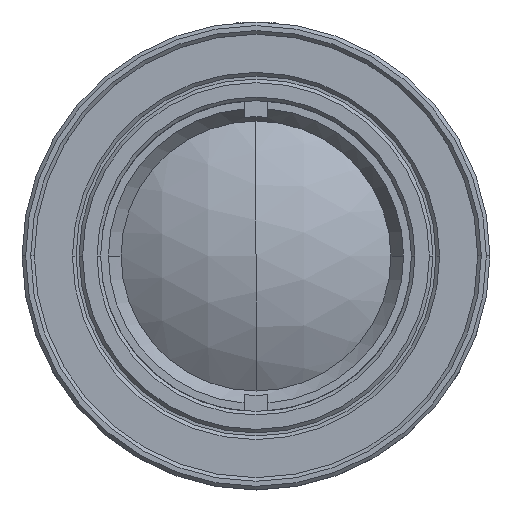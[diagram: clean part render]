
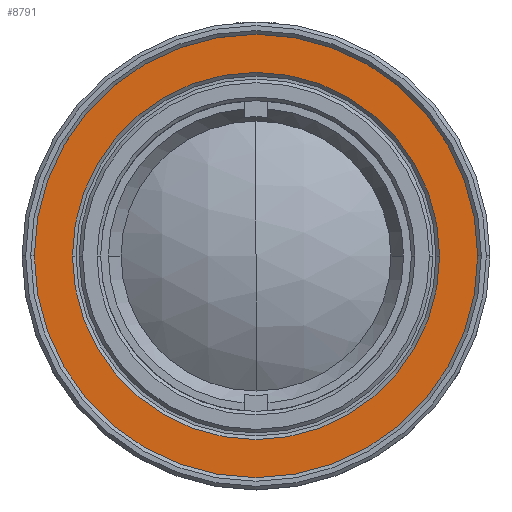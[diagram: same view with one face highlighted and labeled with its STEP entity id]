
A CAD part, top view. The second image highlights one B-rep face of the part: STEP entity #8791.
In plain terms, the highlighted planar face has unit normal (0, 0, 1).
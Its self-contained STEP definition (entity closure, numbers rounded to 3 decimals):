
#1136 = DIRECTION ( 'NONE',  ( 0., 0., -1. ) ) ;
#1562 = CARTESIAN_POINT ( 'NONE',  ( -15.3, 0., 65.484 ) ) ;
#2650 = ORIENTED_EDGE ( 'NONE', *, *, #15760, .T. ) ;
#3049 = VERTEX_POINT ( 'NONE', #18370 ) ;
#3151 = CIRCLE ( 'NONE', #18715, 15.3 ) ;
#4427 = AXIS2_PLACEMENT_3D ( 'NONE', #15319, #1136, #17718 ) ;
#5791 = CARTESIAN_POINT ( 'NONE',  ( 0., 0., 65.484 ) ) ;
#6284 = EDGE_LOOP ( 'NONE', ( #21040, #20786 ) ) ;
#7035 = AXIS2_PLACEMENT_3D ( 'NONE', #10122, #26704, #12495 ) ;
#7483 = AXIS2_PLACEMENT_3D ( 'NONE', #5791, #22405, #8180 ) ;
#7623 = CARTESIAN_POINT ( 'NONE',  ( 0., 0., 65.484 ) ) ;
#8180 = DIRECTION ( 'NONE',  ( -1., 0., 0. ) ) ;
#8791 = ADVANCED_FACE ( 'NONE', ( #10643, #19214 ), #24252, .F. ) ;
#10015 = DIRECTION ( 'NONE',  ( 1., 0., 0. ) ) ;
#10122 = CARTESIAN_POINT ( 'NONE',  ( 0., -18.88, 65.484 ) ) ;
#10643 = FACE_BOUND ( 'NONE', #27177, .T. ) ;
#11232 = VERTEX_POINT ( 'NONE', #16017 ) ;
#11465 = CARTESIAN_POINT ( 'NONE',  ( 18.88, 0., 65.484 ) ) ;
#12271 = AXIS2_PLACEMENT_3D ( 'NONE', #27070, #12878, #29429 ) ;
#12495 = DIRECTION ( 'NONE',  ( 1., 0., 0. ) ) ;
#12878 = DIRECTION ( 'NONE',  ( 0., 0., 1. ) ) ;
#15319 = CARTESIAN_POINT ( 'NONE',  ( 0., 0., 65.484 ) ) ;
#15760 = EDGE_CURVE ( 'NONE', #11232, #30420, #3151, .T. ) ;
#16017 = CARTESIAN_POINT ( 'NONE',  ( 15.3, 0., 65.484 ) ) ;
#16200 = CIRCLE ( 'NONE', #12271, 18.88 ) ;
#17479 = VERTEX_POINT ( 'NONE', #11465 ) ;
#17718 = DIRECTION ( 'NONE',  ( 1., 0., 0. ) ) ;
#18151 = CIRCLE ( 'NONE', #7483, 18.88 ) ;
#18229 = EDGE_CURVE ( 'NONE', #17479, #3049, #16200, .T. ) ;
#18370 = CARTESIAN_POINT ( 'NONE',  ( -18.88, 0., 65.484 ) ) ;
#18715 = AXIS2_PLACEMENT_3D ( 'NONE', #7623, #24250, #10015 ) ;
#19214 = FACE_OUTER_BOUND ( 'NONE', #6284, .T. ) ;
#20786 = ORIENTED_EDGE ( 'NONE', *, *, #18229, .T. ) ;
#21040 = ORIENTED_EDGE ( 'NONE', *, *, #30306, .T. ) ;
#22405 = DIRECTION ( 'NONE',  ( 0., 0., 1. ) ) ;
#24250 = DIRECTION ( 'NONE',  ( 0., 0., -1. ) ) ;
#24252 = PLANE ( 'NONE',  #7035 ) ;
#25723 = EDGE_CURVE ( 'NONE', #30420, #11232, #29746, .T. ) ;
#26704 = DIRECTION ( 'NONE',  ( 0., 0., -1. ) ) ;
#27070 = CARTESIAN_POINT ( 'NONE',  ( 0., 0., 65.484 ) ) ;
#27177 = EDGE_LOOP ( 'NONE', ( #30596, #2650 ) ) ;
#29429 = DIRECTION ( 'NONE',  ( -1., 0., 0. ) ) ;
#29746 = CIRCLE ( 'NONE', #4427, 15.3 ) ;
#30306 = EDGE_CURVE ( 'NONE', #3049, #17479, #18151, .T. ) ;
#30420 = VERTEX_POINT ( 'NONE', #1562 ) ;
#30596 = ORIENTED_EDGE ( 'NONE', *, *, #25723, .T. ) ;
